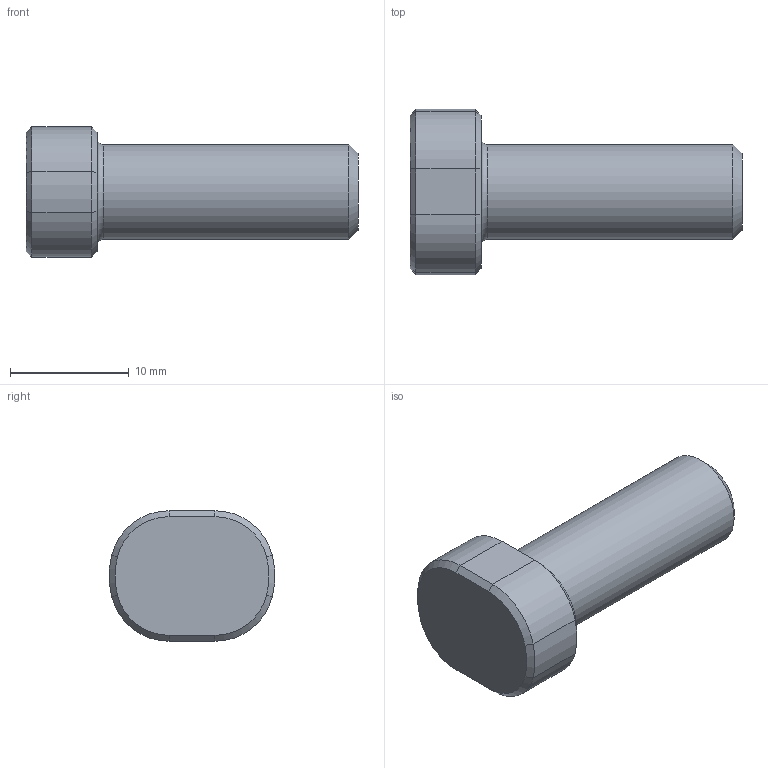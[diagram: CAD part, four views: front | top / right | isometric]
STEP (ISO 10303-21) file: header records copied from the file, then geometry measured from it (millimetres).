
FILE_DESCRIPTION(/* description */ ('STEP AP214'),/* implementation_level */ '2;1');
FILE_NAME(/* name */ 'F15140828',/* time_stamp */ '2024-09-04T15:31:08+02:00',/* author */ ('License CC BY-ND 4.0'),/* organization */ ('CADENAS'),/* preprocessor_version */ 'ST-DEVELOPER v19.3',/* originating_system */ 'PARTsolutions',/* authorisation */ ' ');
FILE_SCHEMA (('AUTOMOTIVE_DESIGN {1 0 10303 214 3 1 1}'));
Length unit declared in the file: millimetre
Products named in the file (1): F15140828
Bounding box: 28 x 13.95 x 11 mm (x, y, z)
Volume: 1878.3 mm3; surface area: 1020.6 mm2
Topology: 1 solids, 1 shells, 30 faces, 63 edges, 36 vertices
Faces by surface type: cone 13, plane 9, cylinder 7, torus 1
Full cylindrical faces by diameter (mm): 8 x1
Entity records: 806 total; most frequent: DIRECTION 150, CARTESIAN_POINT 127, ORIENTED_EDGE 120, EDGE_CURVE 60, AXIS2_PLACEMENT_3D 59, VERTEX_POINT 36, EDGE_LOOP 34, FACE_BOUND 34
